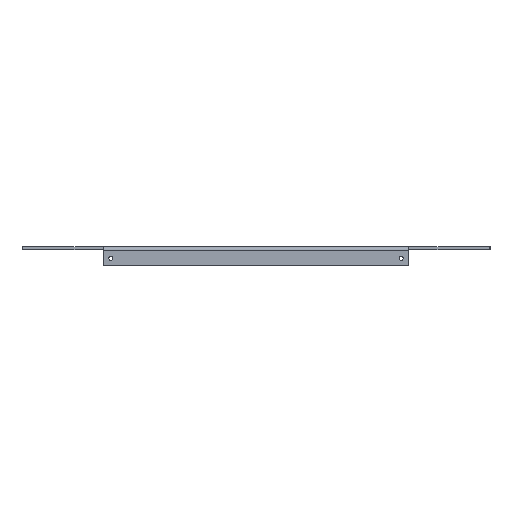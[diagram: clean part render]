
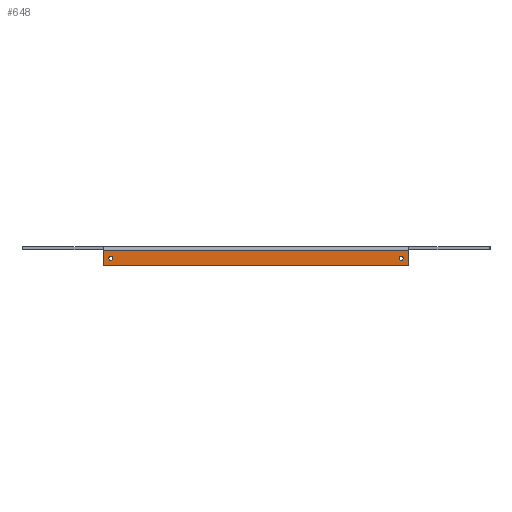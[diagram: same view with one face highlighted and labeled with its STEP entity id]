
A CAD part, left-side view. The second image highlights one B-rep face of the part: STEP entity #648.
In plain terms, the highlighted planar face has unit normal (-1, 0, 0).
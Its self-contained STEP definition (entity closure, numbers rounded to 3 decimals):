
#535=CARTESIAN_POINT('',(695.,4788.5,683.5));
#536=VERTEX_POINT('',#535);
#543=CARTESIAN_POINT('',(695.,5178.5,683.5));
#544=VERTEX_POINT('',#543);
#545=CARTESIAN_POINT('',(695.,5178.5,683.5));
#546=DIRECTION('',(-0.,-1.,-0.));
#547=VECTOR('',#546,390.);
#548=LINE('',#545,#547);
#549=EDGE_CURVE('',#544,#536,#548,.T.);
#560=CARTESIAN_POINT('',(695.,4693.5,700.));
#561=DIRECTION('',(-1.,0.,0.));
#562=DIRECTION('',(-0.,-1.,-0.));
#563=AXIS2_PLACEMENT_3D('',#560,#561,#562);
#564=PLANE('',#563);
#565=CARTESIAN_POINT('',(695.,5169.5,689.9));
#566=VERTEX_POINT('',#565);
#567=CARTESIAN_POINT('',(695.,5166.9,692.5));
#568=VERTEX_POINT('',#567);
#569=CARTESIAN_POINT('',(695.,5169.5,692.5));
#570=DIRECTION('',(-1.,0.,0.));
#571=DIRECTION('',(-0.,-1.,0.));
#572=AXIS2_PLACEMENT_3D('',#569,#570,#571);
#573=CIRCLE('',#572,2.6);
#574=EDGE_CURVE('',#566,#568,#573,.T.);
#575=ORIENTED_EDGE('',*,*,#574,.F.);
#576=CARTESIAN_POINT('',(695.,5169.5,692.5));
#577=DIRECTION('',(-1.,0.,0.));
#578=DIRECTION('',(-0.,-1.,0.));
#579=AXIS2_PLACEMENT_3D('',#576,#577,#578);
#580=CIRCLE('',#579,2.6);
#581=EDGE_CURVE('',#568,#566,#580,.T.);
#582=ORIENTED_EDGE('',*,*,#581,.F.);
#583=EDGE_LOOP('',(#575,#582));
#584=FACE_BOUND('',#583,.T.);
#585=CARTESIAN_POINT('',(695.,4797.5,689.9));
#586=VERTEX_POINT('',#585);
#587=CARTESIAN_POINT('',(695.,4794.9,692.5));
#588=VERTEX_POINT('',#587);
#589=CARTESIAN_POINT('',(695.,4797.5,692.5));
#590=DIRECTION('',(-1.,0.,0.));
#591=DIRECTION('',(-0.,-1.,0.));
#592=AXIS2_PLACEMENT_3D('',#589,#590,#591);
#593=CIRCLE('',#592,2.6);
#594=EDGE_CURVE('',#586,#588,#593,.T.);
#595=ORIENTED_EDGE('',*,*,#594,.F.);
#596=CARTESIAN_POINT('',(695.,4797.5,692.5));
#597=DIRECTION('',(-1.,0.,0.));
#598=DIRECTION('',(-0.,-1.,0.));
#599=AXIS2_PLACEMENT_3D('',#596,#597,#598);
#600=CIRCLE('',#599,2.6);
#601=EDGE_CURVE('',#588,#586,#600,.T.);
#602=ORIENTED_EDGE('',*,*,#601,.F.);
#603=EDGE_LOOP('',(#595,#602));
#604=FACE_BOUND('',#603,.T.);
#605=CARTESIAN_POINT('',(695.,4787.5,702.5));
#606=VERTEX_POINT('',#605);
#607=CARTESIAN_POINT('',(695.,4787.5,684.5));
#608=VERTEX_POINT('',#607);
#609=CARTESIAN_POINT('',(695.,4787.5,702.5));
#610=DIRECTION('',(0.,0.,-1.));
#611=VECTOR('',#610,18.);
#612=LINE('',#609,#611);
#613=EDGE_CURVE('',#606,#608,#612,.T.);
#614=ORIENTED_EDGE('',*,*,#613,.F.);
#615=CARTESIAN_POINT('',(695.,5179.5,702.5));
#616=VERTEX_POINT('',#615);
#617=CARTESIAN_POINT('',(695.,4787.5,702.5));
#618=DIRECTION('',(0.,1.,0.));
#619=VECTOR('',#618,392.);
#620=LINE('',#617,#619);
#621=EDGE_CURVE('',#606,#616,#620,.T.);
#622=ORIENTED_EDGE('',*,*,#621,.T.);
#623=CARTESIAN_POINT('',(695.,5179.5,684.5));
#624=VERTEX_POINT('',#623);
#625=CARTESIAN_POINT('',(695.,5179.5,702.5));
#626=DIRECTION('',(0.,0.,-1.));
#627=VECTOR('',#626,18.);
#628=LINE('',#625,#627);
#629=EDGE_CURVE('',#616,#624,#628,.T.);
#630=ORIENTED_EDGE('',*,*,#629,.T.);
#631=CARTESIAN_POINT('',(695.,5178.5,684.5));
#632=DIRECTION('',(-1.,0.,0.));
#633=DIRECTION('',(-0.,-1.,0.));
#634=AXIS2_PLACEMENT_3D('',#631,#632,#633);
#635=CIRCLE('',#634,1.);
#636=EDGE_CURVE('',#624,#544,#635,.T.);
#637=ORIENTED_EDGE('',*,*,#636,.T.);
#638=ORIENTED_EDGE('',*,*,#549,.T.);
#639=CARTESIAN_POINT('',(695.,4788.5,684.5));
#640=DIRECTION('',(-1.,0.,0.));
#641=DIRECTION('',(-0.,-1.,0.));
#642=AXIS2_PLACEMENT_3D('',#639,#640,#641);
#643=CIRCLE('',#642,1.);
#644=EDGE_CURVE('',#536,#608,#643,.T.);
#645=ORIENTED_EDGE('',*,*,#644,.T.);
#646=EDGE_LOOP('',(#614,#622,#630,#637,#638,#645));
#647=FACE_BOUND('',#646,.T.);
#648=ADVANCED_FACE('',(#584,#604,#647),#564,.T.);
